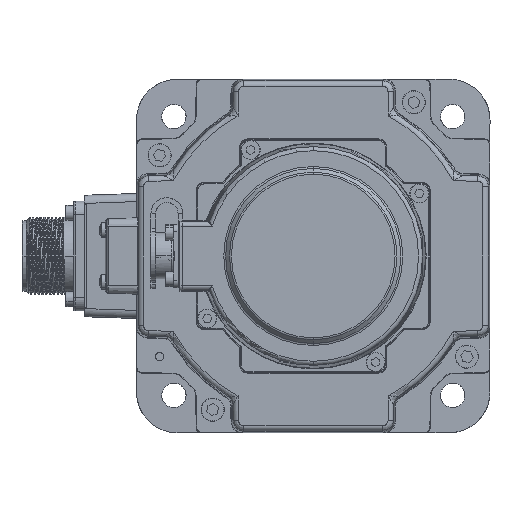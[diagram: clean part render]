
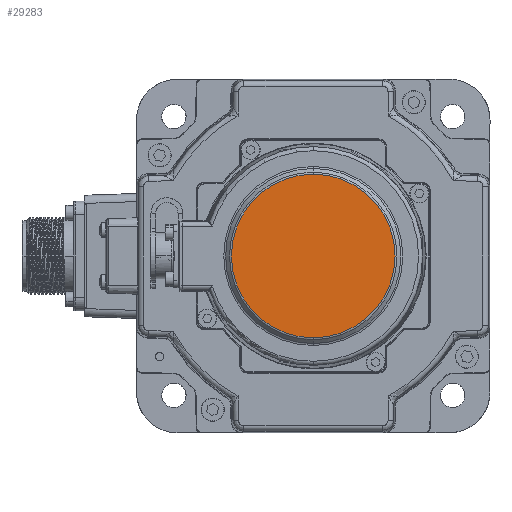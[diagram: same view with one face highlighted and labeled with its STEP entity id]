
A CAD part, left-side view. The second image highlights one B-rep face of the part: STEP entity #29283.
In plain terms, the highlighted planar face has unit normal (-1, 0, 0).
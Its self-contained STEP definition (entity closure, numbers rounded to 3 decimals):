
#1089 = AXIS2_PLACEMENT_3D ( 'NONE', #39187, #8640, #22419 ) ;
#1776 = ORIENTED_EDGE ( 'NONE', *, *, #26238, .T. ) ;
#4968 = CARTESIAN_POINT ( 'NONE',  ( -118.5, 0., 0. ) ) ;
#6000 = DIRECTION ( 'NONE',  ( -1., 0., 0. ) ) ;
#6212 = AXIS2_PLACEMENT_3D ( 'NONE', #4968, #26307, #9400 ) ;
#6368 = EDGE_LOOP ( 'NONE', ( #1776, #20864 ) ) ;
#8104 = PLANE ( 'NONE',  #6212 ) ;
#8640 = DIRECTION ( 'NONE',  ( -1., 0., 0. ) ) ;
#9400 = DIRECTION ( 'NONE',  ( 0., 0., 1. ) ) ;
#11278 = CIRCLE ( 'NONE', #37607, 30.086 ) ;
#18522 = CARTESIAN_POINT ( 'NONE',  ( -118.5, 0., -30.086 ) ) ;
#18644 = EDGE_CURVE ( 'NONE', #29146, #25489, #11278, .T. ) ;
#20864 = ORIENTED_EDGE ( 'NONE', *, *, #18644, .T. ) ;
#22419 = DIRECTION ( 'NONE',  ( 0., 0., 1. ) ) ;
#24850 = CARTESIAN_POINT ( 'NONE',  ( -118.5, 0., 30.086 ) ) ;
#25489 = VERTEX_POINT ( 'NONE', #24850 ) ;
#26238 = EDGE_CURVE ( 'NONE', #25489, #29146, #42414, .T. ) ;
#26307 = DIRECTION ( 'NONE',  ( -1., 0., 0. ) ) ;
#29146 = VERTEX_POINT ( 'NONE', #18522 ) ;
#29283 = ADVANCED_FACE ( 'NONE', ( #38650 ), #8104, .T. ) ;
#33194 = CARTESIAN_POINT ( 'NONE',  ( -118.5, 0., 0. ) ) ;
#36540 = DIRECTION ( 'NONE',  ( 0., 0., 1. ) ) ;
#37607 = AXIS2_PLACEMENT_3D ( 'NONE', #33194, #6000, #36540 ) ;
#38650 = FACE_OUTER_BOUND ( 'NONE', #6368, .T. ) ;
#39187 = CARTESIAN_POINT ( 'NONE',  ( -118.5, 0., 0. ) ) ;
#42414 = CIRCLE ( 'NONE', #1089, 30.086 ) ;
